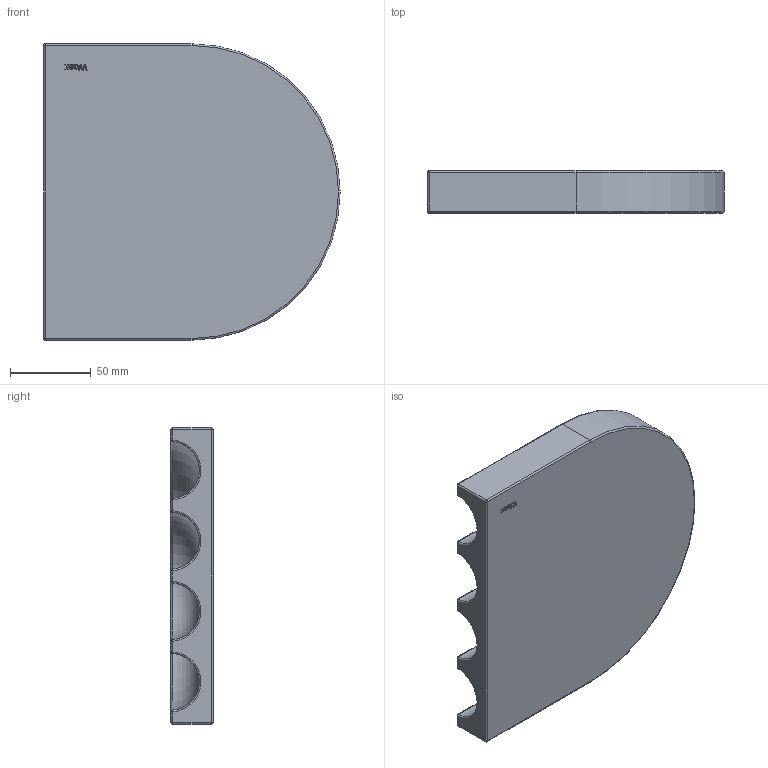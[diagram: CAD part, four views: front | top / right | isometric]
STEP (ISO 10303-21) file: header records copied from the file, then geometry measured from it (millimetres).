
FILE_DESCRIPTION (( 'STEP AP203' ), '1' );
FILE_NAME ('GINCANA TRAY NUTS 3.STEP', '2023-06-29T09:52:38', ( '' ), ( '' ), 'SwSTEP 2.0', 'SolidWorks 2023', '' );
FILE_SCHEMA (( 'CONFIG_CONTROL_DESIGN' ));
Length unit declared in the file: millimetre
Products named in the file (1): GINCANA TRAY NUTS 3
Bounding box: 183 x 26 x 183 mm (x, y, z)
Volume: 468875.6 mm3; surface area: 86508.3 mm2
Topology: 1 solids, 1 shells, 114 faces, 282 edges, 164 vertices
Faces by surface type: plane 49, cylinder 25, bspline 16, torus 12, sphere 12
Entity records: 3439 total; most frequent: CARTESIAN_POINT 801, ORIENTED_EDGE 540, DIRECTION 508, EDGE_CURVE 270, AXIS2_PLACEMENT_3D 171, VECTOR 166, LINE 166, VERTEX_POINT 164
